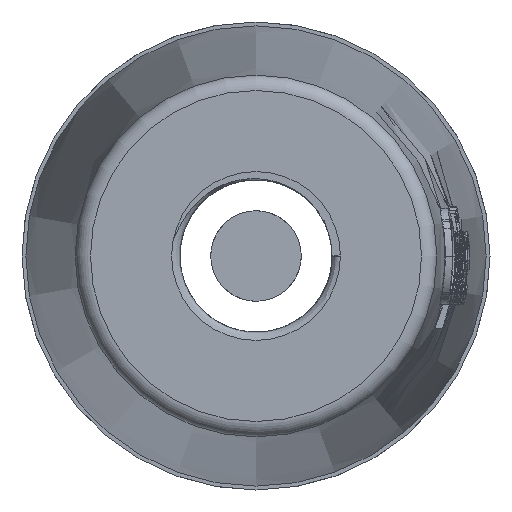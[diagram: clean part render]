
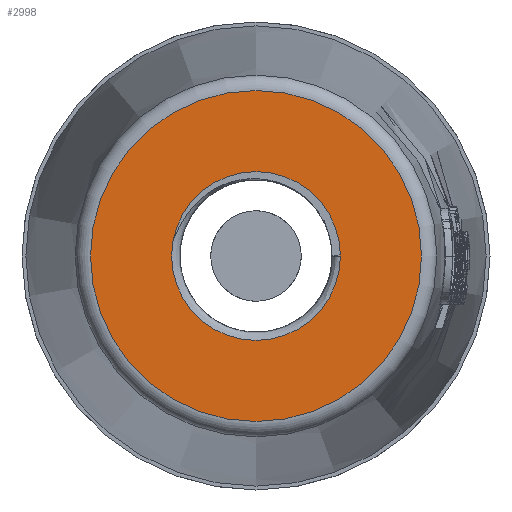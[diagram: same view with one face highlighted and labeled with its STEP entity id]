
A CAD part, front view. The second image highlights one B-rep face of the part: STEP entity #2998.
In plain terms, the highlighted planar face has unit normal (0, -1, 0).
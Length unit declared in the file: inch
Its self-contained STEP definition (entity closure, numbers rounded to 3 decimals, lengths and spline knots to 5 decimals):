
#298=FACE_BOUND('',#705,.T.);
#362=PLANE('',#3284);
#521=FACE_OUTER_BOUND('',#704,.T.);
#704=EDGE_LOOP('',(#2718,#2719));
#705=EDGE_LOOP('',(#2720));
#1194=CIRCLE('',#3282,0.21574);
#1195=CIRCLE('',#3283,0.21574);
#1196=CIRCLE('',#3285,0.11);
#1476=VERTEX_POINT('',#6596);
#1477=VERTEX_POINT('',#6598);
#1478=VERTEX_POINT('',#6602);
#1899=EDGE_CURVE('',#1476,#1477,#1194,.T.);
#1900=EDGE_CURVE('',#1477,#1476,#1195,.T.);
#1901=EDGE_CURVE('',#1478,#1478,#1196,.T.);
#2718=ORIENTED_EDGE('',*,*,#1900,.F.);
#2719=ORIENTED_EDGE('',*,*,#1899,.F.);
#2720=ORIENTED_EDGE('',*,*,#1901,.T.);
#2998=ADVANCED_FACE('',(#521,#298),#362,.T.);
#3282=AXIS2_PLACEMENT_3D('',#6599,#3822,#3823);
#3283=AXIS2_PLACEMENT_3D('',#6600,#3824,#3825);
#3284=AXIS2_PLACEMENT_3D('',#6601,#3826,#3827);
#3285=AXIS2_PLACEMENT_3D('',#6603,#3828,#3829);
#3822=DIRECTION('center_axis',(0.,1.,0.));
#3823=DIRECTION('ref_axis',(0.,0.,-1.));
#3824=DIRECTION('center_axis',(0.,1.,0.));
#3825=DIRECTION('ref_axis',(0.,0.,-1.));
#3826=DIRECTION('center_axis',(0.,-1.,0.));
#3827=DIRECTION('ref_axis',(0.,0.,-1.));
#3828=DIRECTION('center_axis',(0.,1.,0.));
#3829=DIRECTION('ref_axis',(-1.,0.,0.));
#6596=CARTESIAN_POINT('',(0.,-2.12,-0.21574));
#6598=CARTESIAN_POINT('',(0.,-2.12,0.21574));
#6599=CARTESIAN_POINT('Origin',(0.,-2.12,0.));
#6600=CARTESIAN_POINT('Origin',(0.,-2.12,0.));
#6601=CARTESIAN_POINT('Origin',(0.,-2.12,0.235));
#6602=CARTESIAN_POINT('',(0.11,-2.12,0.));
#6603=CARTESIAN_POINT('Origin',(0.,-2.12,0.));
